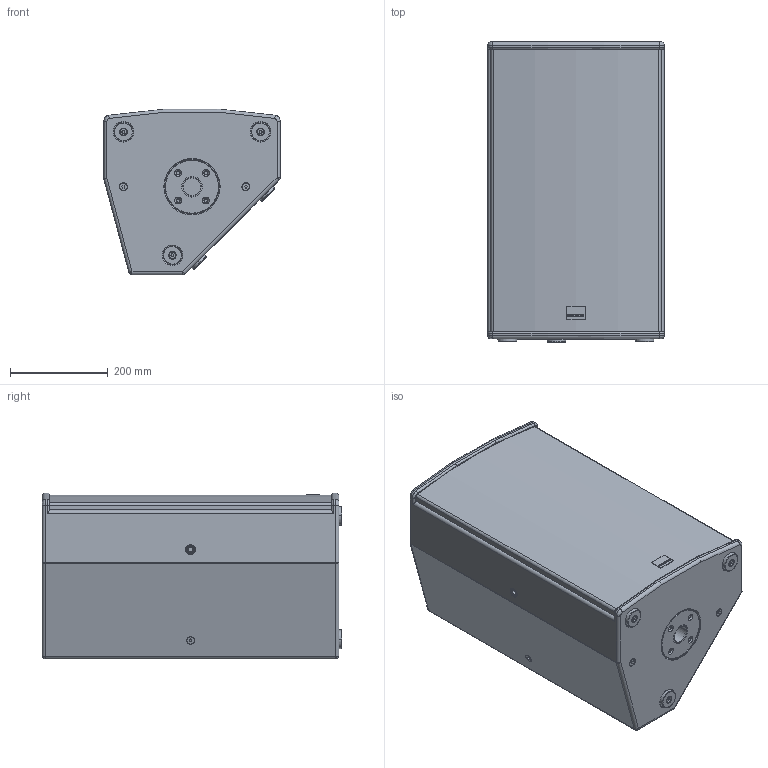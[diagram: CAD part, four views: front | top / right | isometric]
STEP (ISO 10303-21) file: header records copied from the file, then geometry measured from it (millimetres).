
FILE_DESCRIPTION (( 'STEP AP203' ), '1' );
FILE_NAME ('SEEBURG_A6.STEP', '2012-09-28T07:50:41', ( 'Fabian' ), ( '' ), 'SwSTEP 2.0', 'SolidWorks 2009', '' );
FILE_SCHEMA (( 'CONFIG_CONTROL_DESIGN' ));
Length unit declared in the file: millimetre
Products named in the file (2): A6; SEEBURG_A6
Assembly tree (1 placements, depth 2):
  SEEBURG_A6
    A6
Bounding box: 360 x 612 x 338.41 mm (x, y, z)
Surface area: 2259099.2 mm2 (no closed solid volume)
Topology: 0 solids, 28 shells, 709 faces, 1671 edges, 1047 vertices
Faces by surface type: cylinder 283, plane 237, cone 88, torus 82, sphere 13, bspline 6
Entity records: 23670 total; most frequent: CARTESIAN_POINT 6895, DIRECTION 3679, ORIENTED_EDGE 3318, EDGE_CURVE 1663, AXIS2_PLACEMENT_3D 1436, VERTEX_POINT 1043, EDGE_LOOP 810, VECTOR 807
